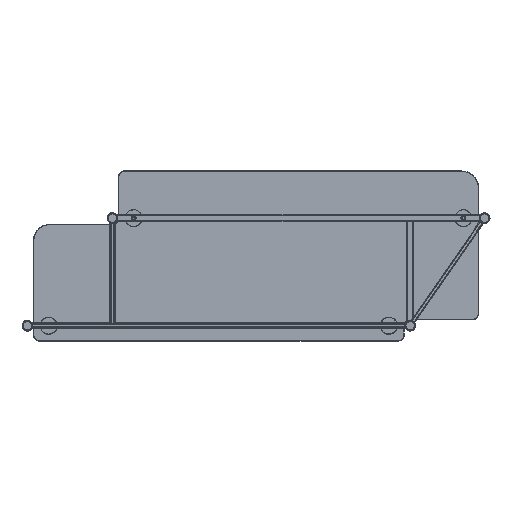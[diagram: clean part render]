
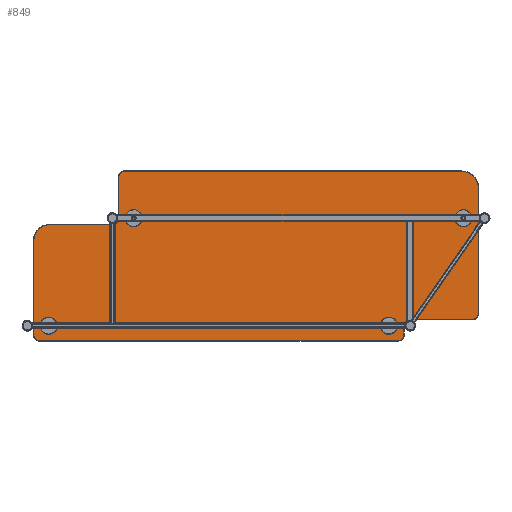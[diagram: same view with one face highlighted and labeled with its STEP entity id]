
A CAD part, front view. The second image highlights one B-rep face of the part: STEP entity #849.
In plain terms, the highlighted planar face has unit normal (0, 1, 0).
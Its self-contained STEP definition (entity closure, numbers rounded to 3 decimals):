
#86=PLANE($,#5811);
#849=ADVANCED_FACE($,(#1146),#86,.T.);
#1146=FACE_OUTER_BOUND($,#1447,.T.);
#1447=EDGE_LOOP($,(#1941));
#1941=ORIENTED_EDGE($,*,*,#2892,.T.);
#2892=EDGE_CURVE($,#3843,#3843,#4826,.T.);
#3843=VERTEX_POINT($,#7263);
#4826=(
BOUNDED_CURVE()
B_SPLINE_CURVE(2,(#7229,#7230,#7231,#7232,#7233,#7234,#7235,#7236,#7237,
#7238,#7239,#7240,#7241,#7242,#7243,#7244,#7245,#7246,#7247,#7248,#7249,
#7250,#7251,#7252,#7253,#7254,#7255,#7256,#7257,#7258,#7259,#7260,#7261),
.UNSPECIFIED.,.T.,.F.)
B_SPLINE_CURVE_WITH_KNOTS((3,2,2,2,2,2,2,2,2,2,2,2,2,2,2,2,3),(0.,1.,2.571,
3.571,5.142,6.142,7.712,8.712,
10.283,11.283,12.854,13.854,15.425,
16.425,17.996,18.996,20.566),.UNSPECIFIED.)
CURVE()
GEOMETRIC_REPRESENTATION_ITEM()
RATIONAL_B_SPLINE_CURVE((1.,1.,1.,0.707,1.,1.,1.,0.707,
1.,1.,1.,0.707,1.,1.,1.,0.707,1.,1.,1.,0.707,
1.,1.,1.,0.707,1.,1.,1.,0.707,1.,1.,1.,0.707,
1.))
REPRESENTATION_ITEM($)
);
#5811=AXIS2_PLACEMENT_3D($,#7262,#5949,$);
#5949=DIRECTION($,(0.,1.,0.));
#7229=CARTESIAN_POINT($,(-322.5,719.,89.));
#7230=CARTESIAN_POINT($,(-322.5,719.,137.5));
#7231=CARTESIAN_POINT($,(-322.5,719.,186.));
#7232=CARTESIAN_POINT($,(-322.5,719.,199.));
#7233=CARTESIAN_POINT($,(-309.5,719.,199.));
#7234=CARTESIAN_POINT($,(87.,719.,199.));
#7235=CARTESIAN_POINT($,(483.5,719.,199.));
#7236=CARTESIAN_POINT($,(522.5,719.,199.));
#7237=CARTESIAN_POINT($,(522.5,719.,160.));
#7238=CARTESIAN_POINT($,(522.5,719.,12.));
#7239=CARTESIAN_POINT($,(522.5,719.,-136.));
#7240=CARTESIAN_POINT($,(522.5,719.,-149.));
#7241=CARTESIAN_POINT($,(509.5,719.,-149.));
#7242=CARTESIAN_POINT($,(436.,719.,-149.));
#7243=CARTESIAN_POINT($,(362.5,719.,-149.));
#7244=CARTESIAN_POINT($,(347.5,719.,-149.));
#7245=CARTESIAN_POINT($,(347.5,719.,-164.));
#7246=CARTESIAN_POINT($,(347.5,719.,-175.));
#7247=CARTESIAN_POINT($,(347.5,719.,-186.));
#7248=CARTESIAN_POINT($,(347.5,719.,-199.));
#7249=CARTESIAN_POINT($,(334.5,719.,-199.));
#7250=CARTESIAN_POINT($,(-87.5,719.,-199.));
#7251=CARTESIAN_POINT($,(-509.5,719.,-199.));
#7252=CARTESIAN_POINT($,(-522.5,719.,-199.));
#7253=CARTESIAN_POINT($,(-522.5,719.,-186.));
#7254=CARTESIAN_POINT($,(-522.5,719.,-75.5));
#7255=CARTESIAN_POINT($,(-522.5,719.,35.));
#7256=CARTESIAN_POINT($,(-522.5,719.,74.));
#7257=CARTESIAN_POINT($,(-483.5,719.,74.));
#7258=CARTESIAN_POINT($,(-410.5,719.,74.));
#7259=CARTESIAN_POINT($,(-337.5,719.,74.));
#7260=CARTESIAN_POINT($,(-322.5,719.,74.));
#7261=CARTESIAN_POINT($,(-322.5,719.,89.));
#7262=CARTESIAN_POINT($,(-522.5,719.,-199.));
#7263=CARTESIAN_POINT($,(-322.5,719.,89.));
